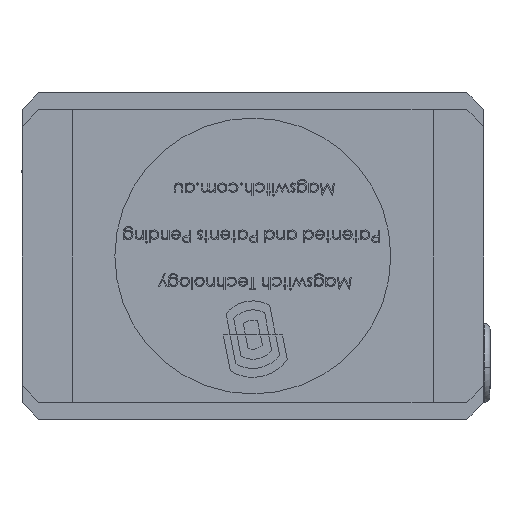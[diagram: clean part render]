
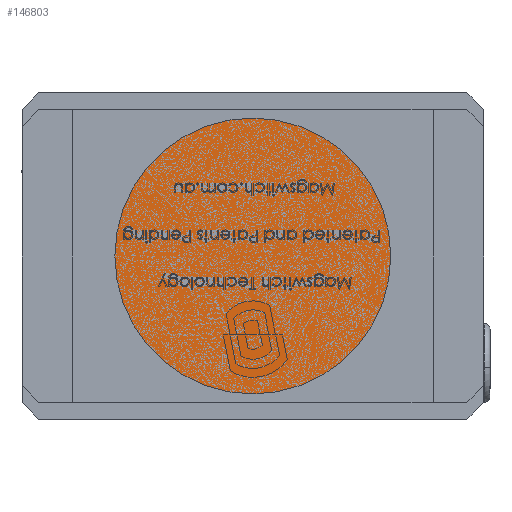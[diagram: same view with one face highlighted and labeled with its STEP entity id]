
A CAD part, front view. The second image highlights one B-rep face of the part: STEP entity #146803.
In plain terms, the highlighted planar face has unit normal (0, -1, 0).
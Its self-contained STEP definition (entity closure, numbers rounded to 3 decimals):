
#4565 = CIRCLE ( 'NONE', #117442, 24.5 ) ;
#5376 = DIRECTION ( 'NONE',  ( 0., 0., 1. ) ) ;
#16975 = CARTESIAN_POINT ( 'NONE',  ( 0., 1., 0. ) ) ;
#27317 = ORIENTED_EDGE ( 'NONE', *, *, #104753, .T. ) ;
#31293 = AXIS2_PLACEMENT_3D ( 'NONE', #78996, #52660, #5376 ) ;
#39451 = EDGE_CURVE ( 'NONE', #43652, #126771, #103758, .T. ) ;
#40034 = PLANE ( 'NONE',  #47737 ) ;
#41843 = CARTESIAN_POINT ( 'NONE',  ( 0., 1., 24.5 ) ) ;
#43652 = VERTEX_POINT ( 'NONE', #41843 ) ;
#47737 = AXIS2_PLACEMENT_3D ( 'NONE', #16975, #153044, #103007 ) ;
#52660 = DIRECTION ( 'NONE',  ( 0., -1., 0. ) ) ;
#60741 = DIRECTION ( 'NONE',  ( 0., 0., 1. ) ) ;
#62349 = CARTESIAN_POINT ( 'NONE',  ( 0., 1., 0. ) ) ;
#75764 = EDGE_LOOP ( 'NONE', ( #27317, #138696 ) ) ;
#78996 = CARTESIAN_POINT ( 'NONE',  ( 0., 1., 0. ) ) ;
#103007 = DIRECTION ( 'NONE',  ( 0., 0., 1. ) ) ;
#103758 = CIRCLE ( 'NONE', #31293, 24.5 ) ;
#104753 = EDGE_CURVE ( 'NONE', #126771, #43652, #4565, .T. ) ;
#110300 = DIRECTION ( 'NONE',  ( 0., -1., 0. ) ) ;
#116073 = CARTESIAN_POINT ( 'NONE',  ( 0., 1., -24.5 ) ) ;
#117442 = AXIS2_PLACEMENT_3D ( 'NONE', #62349, #110300, #60741 ) ;
#122971 = FACE_OUTER_BOUND ( 'NONE', #75764, .T. ) ;
#126771 = VERTEX_POINT ( 'NONE', #116073 ) ;
#138696 = ORIENTED_EDGE ( 'NONE', *, *, #39451, .T. ) ;
#146803 = ADVANCED_FACE ( 'NONE', ( #122971 ), #40034, .F. ) ;
#153044 = DIRECTION ( 'NONE',  ( 0., 1., 0. ) ) ;
